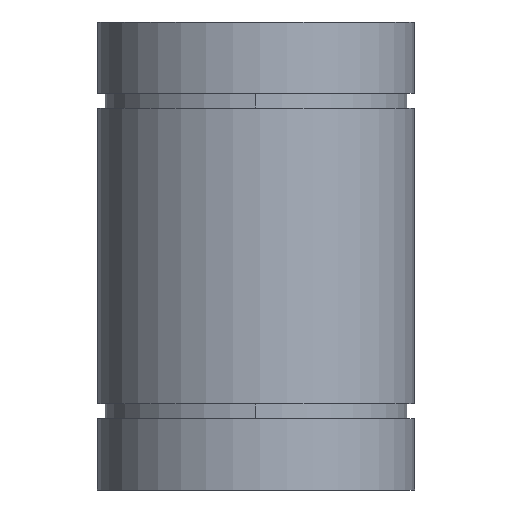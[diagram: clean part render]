
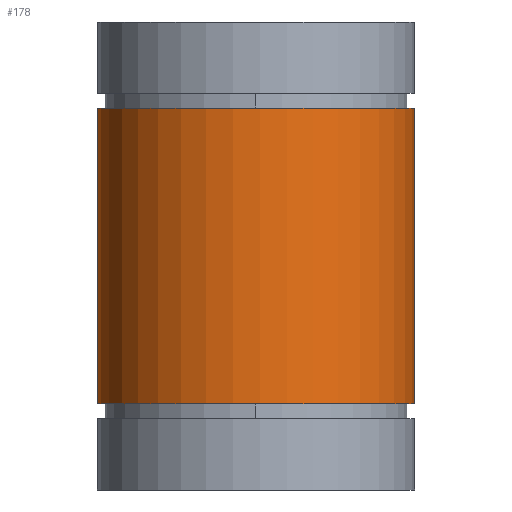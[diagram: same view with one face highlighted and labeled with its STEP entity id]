
A CAD part, front view. The second image highlights one B-rep face of the part: STEP entity #178.
In plain terms, the highlighted cylindrical face has radius 20 mm (diameter 40 mm), a partial arc.
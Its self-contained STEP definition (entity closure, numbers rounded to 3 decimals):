
#137=CARTESIAN_POINT('',(0.0,0.0,0.0));
#138=DIRECTION('',(0.0,0.0,1.0));
#139=DIRECTION('',(-1.0,0.0,0.0));
#140=AXIS2_PLACEMENT_3D('',#137,#138,#139);
#141=CYLINDRICAL_SURFACE('',#140,20.0);
#142=CARTESIAN_POINT('',(20.0,0.,48.15));
#143=VERTEX_POINT('',#142);
#144=CARTESIAN_POINT('',(20.0,0.,10.85));
#145=VERTEX_POINT('',#144);
#146=CARTESIAN_POINT('',(20.0,0.,48.15));
#147=DIRECTION('',(0.0,0.0,-1.0));
#148=VECTOR('',#147,37.3);
#149=LINE('',#146,#148);
#150=EDGE_CURVE('',#143,#145,#149,.T.);
#151=ORIENTED_EDGE('',*,*,#150,.F.);
#152=CARTESIAN_POINT('',(-19.975,-1.,48.15));
#153=VERTEX_POINT('',#152);
#154=CARTESIAN_POINT('',(0.0,0.0,48.15));
#155=DIRECTION('',(0.0,0.0,-1.0));
#156=DIRECTION('',(-1.0,0.0,0.0));
#157=AXIS2_PLACEMENT_3D('',#154,#155,#156);
#158=CIRCLE('',#157,20.0);
#159=EDGE_CURVE('',#143,#153,#158,.T.);
#160=ORIENTED_EDGE('',*,*,#159,.T.);
#161=CARTESIAN_POINT('',(-19.975,-1.,10.85));
#162=VERTEX_POINT('',#161);
#163=CARTESIAN_POINT('',(-19.975,-1.,48.15));
#164=DIRECTION('',(0.0,0.0,-1.0));
#165=VECTOR('',#164,37.3);
#166=LINE('',#163,#165);
#167=EDGE_CURVE('',#153,#162,#166,.T.);
#168=ORIENTED_EDGE('',*,*,#167,.T.);
#169=CARTESIAN_POINT('',(0.0,0.0,10.85));
#170=DIRECTION('',(0.0,0.0,1.0));
#171=DIRECTION('',(-1.0,0.0,0.0));
#172=AXIS2_PLACEMENT_3D('',#169,#170,#171);
#173=CIRCLE('',#172,20.0);
#174=EDGE_CURVE('',#162,#145,#173,.T.);
#175=ORIENTED_EDGE('',*,*,#174,.T.);
#176=EDGE_LOOP('',(#151,#160,#168,#175));
#177=FACE_OUTER_BOUND('',#176,.T.);
#178=ADVANCED_FACE('',(#177),#141,.T.);
